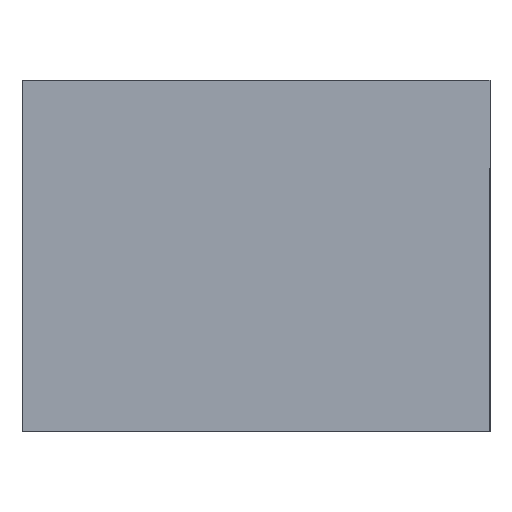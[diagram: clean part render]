
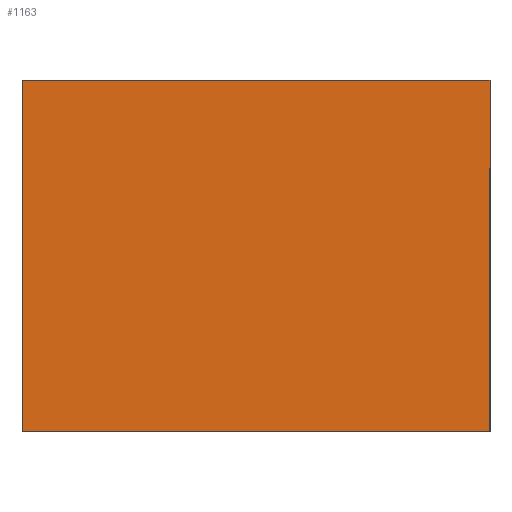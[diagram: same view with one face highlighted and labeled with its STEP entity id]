
A CAD part, front view. The second image highlights one B-rep face of the part: STEP entity #1163.
In plain terms, the highlighted planar face has unit normal (0, -1, 0).
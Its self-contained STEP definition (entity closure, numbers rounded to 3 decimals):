
#69 = LINE ( 'NONE', #236, #556 ) ;
#91 = VERTEX_POINT ( 'NONE', #260 ) ;
#111 = CARTESIAN_POINT ( 'NONE',  ( -50., 0., 37.5 ) ) ;
#236 = CARTESIAN_POINT ( 'NONE',  ( -50., 0., -37.5 ) ) ;
#260 = CARTESIAN_POINT ( 'NONE',  ( -50., 0., -37.5 ) ) ;
#425 = EDGE_CURVE ( 'NONE', #1837, #91, #69, .T. ) ;
#493 = DIRECTION ( 'NONE',  ( 0., 0., -1. ) ) ;
#556 = VECTOR ( 'NONE', #603, 1000. ) ;
#600 = CARTESIAN_POINT ( 'NONE',  ( -50., 0., -37.5 ) ) ;
#603 = DIRECTION ( 'NONE',  ( -1., 0., 0. ) ) ;
#619 = DIRECTION ( 'NONE',  ( 0., 0., 1. ) ) ;
#633 = ORIENTED_EDGE ( 'NONE', *, *, #2040, .F. ) ;
#752 = EDGE_CURVE ( 'NONE', #91, #2222, #1743, .T. ) ;
#753 = CARTESIAN_POINT ( 'NONE',  ( 50., 0., 37.5 ) ) ;
#897 = CARTESIAN_POINT ( 'NONE',  ( -50., 0., 37.5 ) ) ;
#930 = FACE_OUTER_BOUND ( 'NONE', #1173, .T. ) ;
#1019 = CARTESIAN_POINT ( 'NONE',  ( 50., 0., -37.5 ) ) ;
#1052 = ORIENTED_EDGE ( 'NONE', *, *, #752, .F. ) ;
#1071 = ORIENTED_EDGE ( 'NONE', *, *, #425, .F. ) ;
#1163 = ADVANCED_FACE ( 'NONE', ( #930 ), #2173, .F. ) ;
#1173 = EDGE_LOOP ( 'NONE', ( #633, #1808, #1052, #1071 ) ) ;
#1181 = LINE ( 'NONE', #897, #2081 ) ;
#1217 = AXIS2_PLACEMENT_3D ( 'NONE', #2028, #1954, #1948 ) ;
#1280 = VECTOR ( 'NONE', #619, 1000. ) ;
#1344 = CARTESIAN_POINT ( 'NONE',  ( 50., 0., -37.5 ) ) ;
#1598 = LINE ( 'NONE', #1344, #2021 ) ;
#1743 = LINE ( 'NONE', #600, #1280 ) ;
#1762 = VERTEX_POINT ( 'NONE', #753 ) ;
#1808 = ORIENTED_EDGE ( 'NONE', *, *, #1974, .F. ) ;
#1837 = VERTEX_POINT ( 'NONE', #1019 ) ;
#1948 = DIRECTION ( 'NONE',  ( 0., 0., 1. ) ) ;
#1954 = DIRECTION ( 'NONE',  ( 0., 1., 0. ) ) ;
#1974 = EDGE_CURVE ( 'NONE', #2222, #1762, #1181, .T. ) ;
#2021 = VECTOR ( 'NONE', #493, 1000. ) ;
#2028 = CARTESIAN_POINT ( 'NONE',  ( 0., 0., 0. ) ) ;
#2040 = EDGE_CURVE ( 'NONE', #1762, #1837, #1598, .T. ) ;
#2081 = VECTOR ( 'NONE', #2241, 1000. ) ;
#2173 = PLANE ( 'NONE',  #1217 ) ;
#2222 = VERTEX_POINT ( 'NONE', #111 ) ;
#2241 = DIRECTION ( 'NONE',  ( 1., 0., 0. ) ) ;
